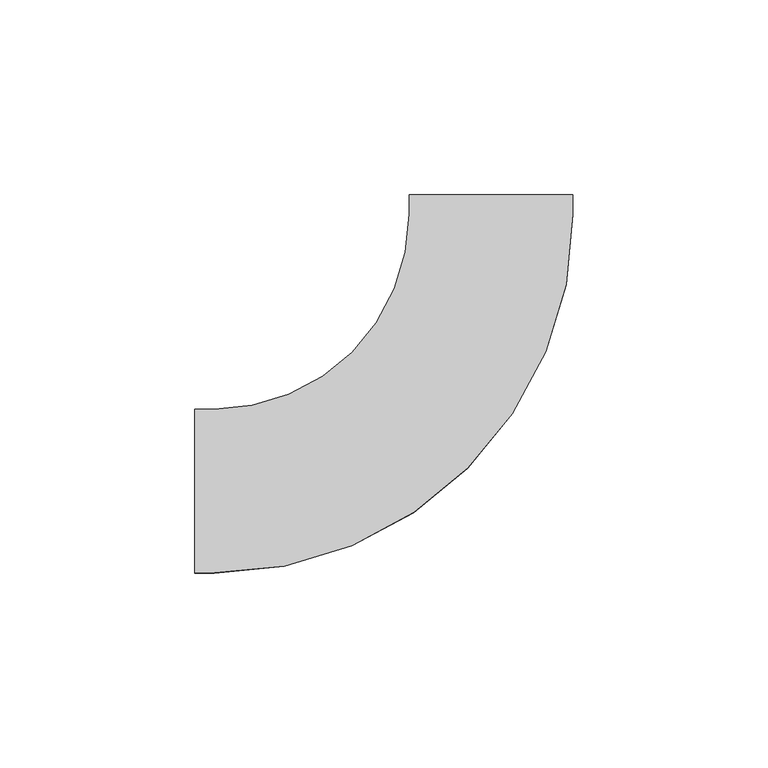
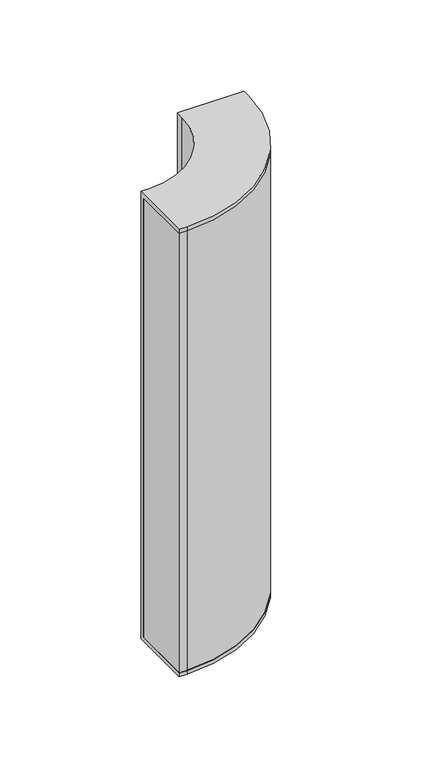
"""IFC4 building model written with IfcOpenShell, lengths in millimetres: cable carrier fitting geometry, BAKS_Vertical bend LU : LLJ_H42."""

from ifc_helpers import new_model, si_unit, point, frame, frame_2d, origin, place, context, project, spatial, polyline, circle_curve, trimmed, segment, composite_curve, outline, extrude, source, transform, mapped, element, save
from ifc_brep_helpers import plane_surface, cylinder_surface, revolved_surface, advanced_brep


def cable_carrier_fitting_f62230c1(model_context):
    return source(origin(), model_context, "Body", "SolidModel", [
        advanced_brep(
        [(-76.0, -21.0, 150.0), (-76.0, 21.0, 150.0), (-76.0, 21.0, -150.0), (-76.0, -21.0, -150.0), (-76.0, -21.0, -147.46), (-76.0, 18.46, -147.46), (-76.0, 18.46, 147.46), (-76.0, -21.0, 147.46), (21.0, 76.0, 150.0), (21.0, 76.0, 147.46), (-18.46, 76.0, 147.46), (-18.46, 76.0, -147.46), (21.0, 76.0, -147.46), (21.0, 76.0, -150.0), (-21.0, 76.0, -150.0), (-21.0, 76.0, 150.0), (-71.0, -21.0, 150.0), (21.0, 71.0, 150.0), (-21.0, 71.0, 150.0), (-71.0, 21.0, 150.0), (-71.0, 21.0, -150.0), (-21.0, 71.0, -150.0), (21.0, 71.0, -150.0), (-71.0, -21.0, -150.0), (-71.0, -21.0, -147.46), (21.0, 71.0, -147.46), (-18.46, 71.0, -147.46), (-71.0, 18.46, -147.46), (-71.0, 18.46, 147.46), (-18.46, 71.0, 147.46), (21.0, 71.0, 147.46), (-71.0, -21.0, 147.46)],
        [
            (0, 1),
            (1, 2),
            (2, 3),
            (3, 4),
            (4, 5),
            (5, 6),
            (6, 7),
            (7, 0),
            (8, 9),
            (9, 10),
            (10, 11),
            (11, 12),
            (12, 13),
            (13, 14),
            (14, 15),
            (15, 8),
            (0, 16),
            (16, 17, circle_curve(frame((-71.0, 71.0, 150.0), z_axis=(0.0, 0.0, 1.0), x_axis=(0.0, -1.0, 0.0)), 92.0)),
            (17, 8),
            (15, 18),
            (18, 19, circle_curve(frame((-71.0, 71.0, 150.0), z_axis=(0.0, 0.0, -1.0), x_axis=(0.0, -1.0, 0.0)), 50.0)),
            (19, 1),
            (19, 20),
            (20, 2),
            (20, 21, circle_curve(frame((-71.0, 71.0, -150.0), z_axis=(0.0, 0.0, 1.0), x_axis=(0.0, -1.0, 0.0)), 50.0)),
            (21, 14),
            (13, 22),
            (22, 23, circle_curve(frame((-71.0, 71.0, -150.0), z_axis=(0.0, 0.0, -1.0), x_axis=(0.0, -1.0, 0.0)), 92.0)),
            (23, 3),
            (23, 24),
            (24, 4),
            (24, 25, circle_curve(frame((-71.0, 71.0, -147.46), z_axis=(0.0, 0.0, 1.0), x_axis=(0.0, -1.0, 0.0)), 92.0)),
            (25, 12),
            (11, 26),
            (26, 27, circle_curve(frame((-71.0, 71.0, -147.46), z_axis=(0.0, 0.0, -1.0), x_axis=(0.0, -1.0, 0.0)), 52.54)),
            (27, 5),
            (27, 28),
            (28, 6),
            (28, 29, circle_curve(frame((-71.0, 71.0, 147.46), z_axis=(0.0, 0.0, 1.0), x_axis=(0.0, -1.0, 0.0)), 52.54)),
            (29, 10),
            (9, 30),
            (30, 31, circle_curve(frame((-71.0, 71.0, 147.46), z_axis=(0.0, 0.0, -1.0), x_axis=(0.0, -1.0, 0.0)), 92.0)),
            (31, 7),
            (31, 16),
            (18, 21),
            (22, 25),
            (26, 29),
            (30, 17),
        ],
        [
            plane_surface(frame((-76.0, 0.0, 0.0), z_axis=(-1.0, 0.0, 0.0), x_axis=(0.0, 0.0, 1.0))),
            plane_surface(frame((0.0, 76.0, 0.0), z_axis=(0.0, 1.0, 0.0), x_axis=(0.0, 0.0, 1.0))),
            plane_surface(frame((-76.0, -21.0, 150.0), z_axis=(0.0, 0.0, 1.0), x_axis=(1.0, 0.0, 0.0))),
            plane_surface(frame((-76.0, 21.0, 150.0), z_axis=(0.0, 1.0, 0.0), x_axis=(1.0, 0.0, 0.0))),
            plane_surface(frame((-76.0, 21.0, -150.0), z_axis=(0.0, 0.0, -1.0), x_axis=(1.0, 0.0, 0.0))),
            plane_surface(frame((-76.0, -21.0, -150.0), z_axis=(0.0, -1.0, 0.0), x_axis=(1.0, 0.0, 0.0))),
            plane_surface(frame((-76.0, -21.0, -147.46), z_axis=(0.0, 0.0, 1.0), x_axis=(1.0, 0.0, 0.0))),
            plane_surface(frame((-76.0, 18.46, -147.46), z_axis=(0.0, -1.0, 0.0), x_axis=(1.0, 0.0, 0.0))),
            plane_surface(frame((-76.0, 18.46, 147.46), z_axis=(0.0, 0.0, -1.0), x_axis=(1.0, 0.0, 0.0))),
            plane_surface(frame((-76.0, -21.0, 147.46), z_axis=(0.0, -1.0, 0.0), x_axis=(1.0, 0.0, 0.0))),
            revolved_surface(polyline([(-71.0, 21.0, 150.0), (-71.0, 21.0, -150.0)]), (-71.0, 71.0, 0.0), (0.0, 0.0, 1.0)),
            cylinder_surface(frame((-71.0, 71.0, 0.0), z_axis=(0.0, 0.0, 1.0), x_axis=(0.0, -1.0, 0.0)), 92.0),
            cylinder_surface(frame((-71.0, 71.0, 0.0), z_axis=(0.0, 0.0, 1.0), x_axis=(0.0, -1.0, 0.0)), 52.54),
            plane_surface(frame((-21.0, 71.0, 150.0), z_axis=(-1.0, 0.0, 0.0), x_axis=(0.0, 1.0, 0.0))),
            plane_surface(frame((21.0, 71.0, -150.0), z_axis=(1.0, 0.0, 0.0), x_axis=(0.0, 1.0, 0.0))),
            plane_surface(frame((-18.46, 71.0, -147.46), z_axis=(1.0, 0.0, 0.0), x_axis=(0.0, 1.0, 0.0))),
            plane_surface(frame((21.0, 71.0, 147.46), z_axis=(1.0, 0.0, 0.0), x_axis=(0.0, 1.0, 0.0))),
        ],
        [
            (0, [[1, 2, 3, 4, 5, 6, 7, 8]]),
            (1, [[9, 10, 11, 12, 13, 14, 15, 16]]),
            (2, [[-1, 17, 18, 19, -16, 20, 21, 22]]),
            (3, [[-2, -22, 23, 24]]),
            (4, [[-3, -24, 25, 26, -14, 27, 28, 29]]),
            (5, [[-4, -29, 30, 31]]),
            (6, [[-5, -31, 32, 33, -12, 34, 35, 36]]),
            (7, [[-6, -36, 37, 38]]),
            (8, [[-7, -38, 39, 40, -10, 41, 42, 43]]),
            (9, [[-8, -43, 44, -17]]),
            (10, [[-25, -23, -21, 45]]),
            (11, [[-32, -30, -28, 46]]),
            (12, [[-39, -37, -35, 47]]),
            (11, [[-18, -44, -42, 48]]),
            (13, [[-45, -20, -15, -26]]),
            (14, [[-46, -27, -13, -33]]),
            (15, [[-47, -34, -11, -40]]),
            (16, [[-48, -41, -9, -19]]),
        ],
    ),
        extrude(outline(composite_curve([segment(polyline([(-76.0, -21.0), (-76.0, 21.0), (-71.0, 21.0)]), True, "CONTINUOUS"), segment(trimmed(circle_curve(frame_2d((-71.0, 71.0)), 50.0), [point((-71.0, 21.0))], [point((-21.0, 71.0))], True, "CARTESIAN"), True, "CONTINUOUS"), segment(polyline([(-21.0, 71.0), (-21.0, 76.0), (21.0, 76.0), (21.0, 71.0)]), True, "CONTINUOUS"), segment(trimmed(circle_curve(frame_2d((-71.0, 71.0)), 92.0), [point((21.0, 71.0))], [point((-71.0, -21.0))], False, "CARTESIAN"), True, "CONTINUOUS"), segment(polyline([(-71.0, -21.0), (-76.0, -21.0)]), True, "CONTINUOUS")], self_intersect=False)), frame((0.0, 0.0, -150.0), z_axis=(0.0, 0.0, 1.0), x_axis=(1.0, 0.0, 0.0)), (0.0, 0.0, 1.0), 300.0),
    ])


if __name__ == "__main__":
    model = new_model("IFC4")
    model_context = context("Model", 3, world=origin())
    ifc_project = project(units=[si_unit("LENGTHUNIT", "METRE", prefix="MILLI")], contexts=[model_context])
    site = spatial("IfcSite", under=ifc_project)
    building = spatial("IfcBuilding", under=site)
    placement = place(None, origin())
    cable_carrier_fitting_shape = cable_carrier_fitting_f62230c1(model_context)
    element("IfcCableCarrierFitting", 1, ObjectType="BAKS_Vertical bend LU : LLJ_H42", at=placement, inside=building, context=model_context, shape_type="MappedRepresentation", body=[
        mapped(cable_carrier_fitting_shape, transform((0.0, 0.0, 0.0), x_axis=(1.0, 0.0, 0.0), y_axis=(0.0, 1.0, 0.0), z_axis=(0.0, 0.0, 1.0))),
    ])
    save(model, "model.ifc")
